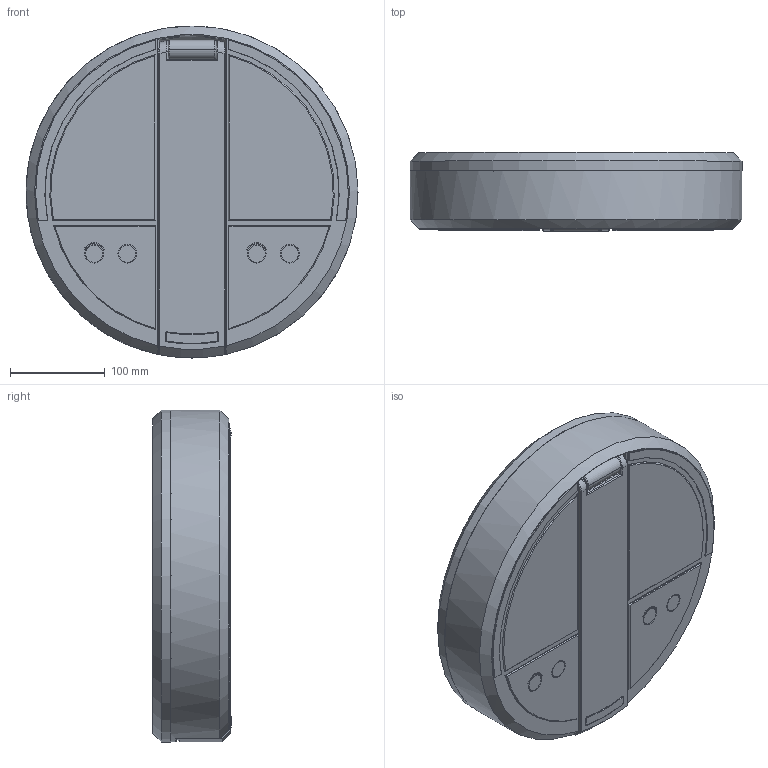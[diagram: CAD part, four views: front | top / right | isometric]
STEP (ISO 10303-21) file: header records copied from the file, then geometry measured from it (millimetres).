
FILE_DESCRIPTION(/* description */ (''),/* implementation_level */ '2;1');
FILE_NAME(/* name */ 'model2.stp',/* time_stamp */ '2016-08-31T21:32:44+09:00',/* author */ (''),/* organization */ (''),/* preprocessor_version */ 'ST-DEVELOPER v15',/* originating_system */ 'SIEMENS PLM Software NX 8.5',/* authorisation */ '');
FILE_SCHEMA (('AUTOMOTIVE_DESIGN { 1 0 10303 214 3 1 1 1 }'));
Length unit declared in the file: millimetre
Products named in the file (1): model2
Bounding box: 350 x 83 x 350 mm (x, y, z)
Volume: 2517168.3 mm3; surface area: 902538.1 mm2
Topology: 25 solids, 25 shells, 541 faces, 1212 edges, 759 vertices
Faces by surface type: plane 275, cylinder 182, torus 46, bspline 27, cone 10, extrusion 1
Full cylindrical faces by diameter (mm): 5 x2, 5.2 x1, 18 x8, 19.8 x4, 20 x4, 330 x1, 346 x2, 350 x2
Entity records: 16391 total; most frequent: CARTESIAN_POINT 4361, DIRECTION 2458, ORIENTED_EDGE 2338, EDGE_CURVE 1169, AXIS2_PLACEMENT_3D 895, VERTEX_POINT 752, VECTOR 668, LINE 667
